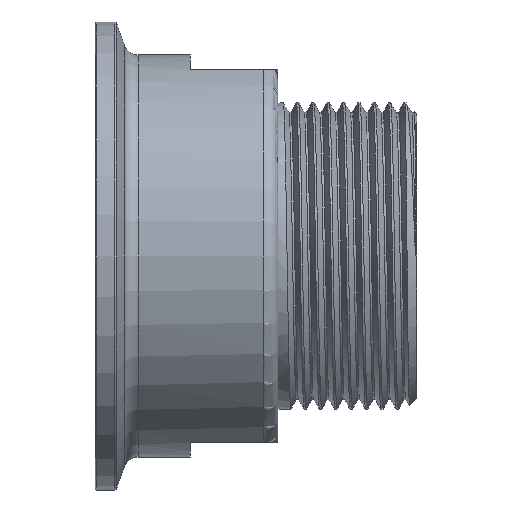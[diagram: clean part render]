
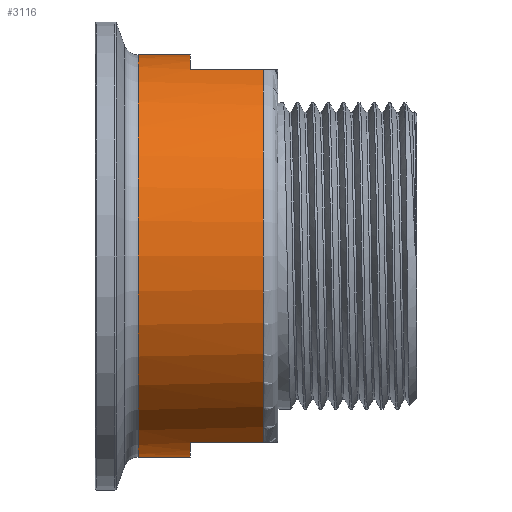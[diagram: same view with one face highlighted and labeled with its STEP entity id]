
A CAD part, left-side view. The second image highlights one B-rep face of the part: STEP entity #3116.
In plain terms, the highlighted cylindrical face has radius 27.5 mm (diameter 55 mm), a partial arc.
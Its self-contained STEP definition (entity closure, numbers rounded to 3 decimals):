
#918=CARTESIAN_POINT('',(-10.296,-23.,-25.5));
#952=CARTESIAN_POINT('',(0.,-23.,0.));
#953=DIRECTION('',(0.,-1.,0.));
#954=DIRECTION('',(-0.374,0.,0.927));
#955=AXIS2_PLACEMENT_3D('',#952,#953,#954);
#957=DIRECTION('',(0.,1.,0.));
#958=VECTOR('',#957,10.);
#959=CARTESIAN_POINT('',(-10.296,-23.,-25.5));
#960=LINE('',#959,#958);
#961=CARTESIAN_POINT('',(0.,-13.,0.));
#962=DIRECTION('',(0.,1.,0.));
#963=DIRECTION('',(0.,0.,-1.));
#964=AXIS2_PLACEMENT_3D('',#961,#962,#963);
#966=DIRECTION('',(0.,-1.,0.));
#967=VECTOR('',#966,7.112);
#968=CARTESIAN_POINT('',(0.,-5.888,-27.5));
#969=LINE('',#968,#967);
#970=CARTESIAN_POINT('',(0.,-5.888,0.));
#971=DIRECTION('',(0.,1.,0.));
#972=DIRECTION('',(0.,0.,-1.));
#973=AXIS2_PLACEMENT_3D('',#970,#971,#972);
#975=DIRECTION('',(0.,-1.,0.));
#976=VECTOR('',#975,7.112);
#977=CARTESIAN_POINT('',(0.,-5.888,27.5));
#978=LINE('',#977,#976);
#979=CARTESIAN_POINT('',(0.,-13.,0.));
#980=DIRECTION('',(0.,1.,0.));
#981=DIRECTION('',(-0.374,0.,0.927));
#982=AXIS2_PLACEMENT_3D('',#979,#980,#981);
#984=DIRECTION('',(0.,1.,0.));
#985=VECTOR('',#984,10.);
#986=CARTESIAN_POINT('',(-10.296,-23.,25.5));
#987=LINE('',#986,#985);
#1351=CARTESIAN_POINT('',(0.,-5.888,-27.5));
#1352=CARTESIAN_POINT('',(0.,-5.888,27.5));
#1353=VERTEX_POINT('',#1351);
#1354=VERTEX_POINT('',#1352);
#1367=CARTESIAN_POINT('',(0.,-13.,27.5));
#1369=VERTEX_POINT('',#1367);
#1372=CARTESIAN_POINT('',(0.,-13.,-27.5));
#1374=VERTEX_POINT('',#1372);
#1375=CARTESIAN_POINT('',(-10.296,-13.,25.5));
#1376=VERTEX_POINT('',#1375);
#1377=CARTESIAN_POINT('',(-10.296,-13.,-25.5));
#1378=VERTEX_POINT('',#1377);
#1396=VERTEX_POINT('',#918);
#1397=CARTESIAN_POINT('',(-10.296,-23.,25.5));
#1398=VERTEX_POINT('',#1397);
#3099=CARTESIAN_POINT('',(0.,-46.2,0.));
#3100=DIRECTION('',(0.,1.,0.));
#3101=DIRECTION('',(0.,0.,-1.));
#3102=AXIS2_PLACEMENT_3D('',#3099,#3100,#3101);
#3103=CYLINDRICAL_SURFACE('',#3102,27.5);
#3104=ORIENTED_EDGE('',*,*,#3043,.T.);
#3105=ORIENTED_EDGE('',*,*,#3060,.T.);
#3107=ORIENTED_EDGE('',*,*,#3106,.F.);
#3108=ORIENTED_EDGE('',*,*,#3079,.F.);
#3110=ORIENTED_EDGE('',*,*,#3109,.T.);
#3111=ORIENTED_EDGE('',*,*,#3075,.T.);
#3112=ORIENTED_EDGE('',*,*,#3094,.F.);
#3113=ORIENTED_EDGE('',*,*,#3027,.F.);
#3114=EDGE_LOOP('',(#3104,#3105,#3107,#3108,#3110,#3111,#3112,#3113));
#3115=FACE_OUTER_BOUND('',#3114,.F.);
#3116=ADVANCED_FACE('',(#3115),#3103,.T.);
#956=CIRCLE('',#955,27.5);
#965=CIRCLE('',#964,27.5);
#974=CIRCLE('',#973,27.5);
#983=CIRCLE('',#982,27.5);
#3027=EDGE_CURVE('',#1398,#1376,#987,.T.);
#3043=EDGE_CURVE('',#1398,#1396,#956,.T.);
#3060=EDGE_CURVE('',#1396,#1378,#960,.T.);
#3075=EDGE_CURVE('',#1354,#1369,#978,.T.);
#3079=EDGE_CURVE('',#1353,#1374,#969,.T.);
#3094=EDGE_CURVE('',#1376,#1369,#983,.T.);
#3106=EDGE_CURVE('',#1374,#1378,#965,.T.);
#3109=EDGE_CURVE('',#1353,#1354,#974,.T.);
